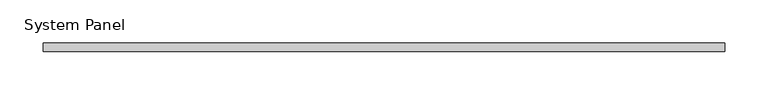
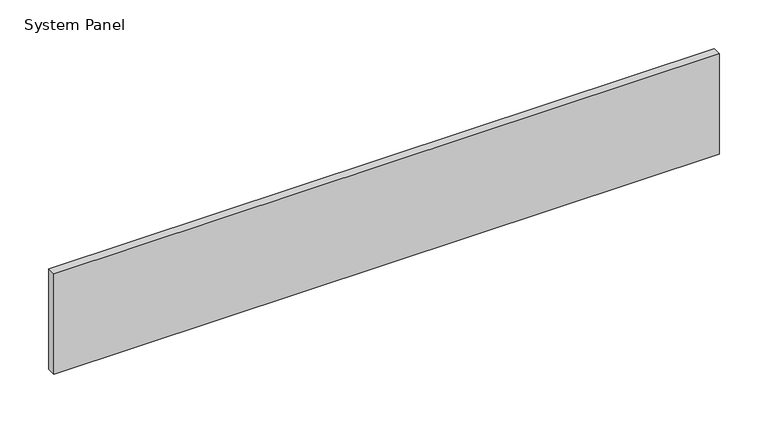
"""IFC4 building model written with IfcOpenShell, lengths in millimetres: plate geometry, System Panel : VACÍO."""

from ifc_helpers import new_model, si_unit, origin, origin_with_axes, place, context, project, spatial, polyline, outline, extrude, source, transform, mapped, element, save


def system_panel_b0934166(model_context):
    return source(origin(), model_context, "Body", "SweptSolid", [
        extrude(outline(polyline([(393.5297721, -5.0), (-393.5297721, -5.0), (-393.5297721, 5.0), (393.5297721, 5.0), (393.5297721, -5.0)])), origin_with_axes(), (0.0, 0.0, 1.0), 125.6666667),
    ])


if __name__ == "__main__":
    model = new_model("IFC4")
    model_context = context("Model", 3, world=origin())
    ifc_project = project(units=[si_unit("LENGTHUNIT", "METRE", prefix="MILLI")], contexts=[model_context])
    site = spatial("IfcSite", under=ifc_project)
    building = spatial("IfcBuilding", under=site)
    placement = place(None, origin())
    system_panel_shape = system_panel_b0934166(model_context)
    element("IfcPlate", 1, ObjectType="System Panel : VACÍO", at=placement, inside=building, context=model_context, shape_type="MappedRepresentation", body=[
        mapped(system_panel_shape, transform((0.0, 0.0, 0.0), x_axis=(1.0, 0.0, 0.0), y_axis=(0.0, 1.0, 0.0), z_axis=(0.0, 0.0, 1.0))),
    ])
    save(model, "model.ifc")
